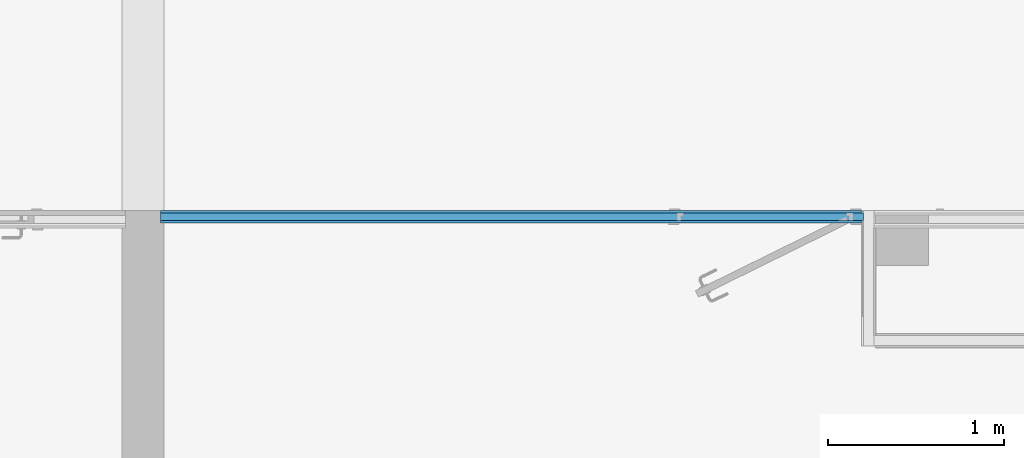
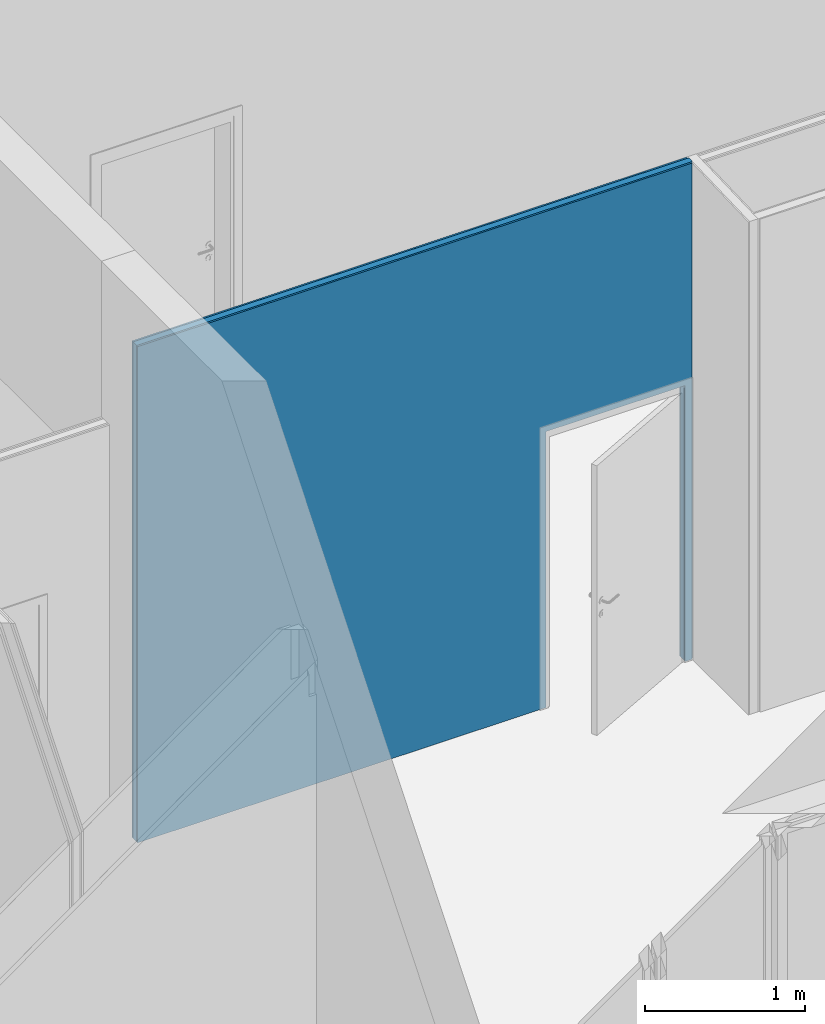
# One storey, part 23 of 34: 3 building element parts, 1 opening, 1 element without a shape of its own.
"""IFC2X3 building model written with IfcOpenShell, lengths in metres."""

from ifc_helpers import new_model, entity, si_unit, converted_unit, derived_unit, money_unit, direction, frame, origin_with_axes, origin_2d_with_axis, place, context, subcontext, project, spatial, polyline, rectangle, outline, extrude, boolean, faceted_brep, material, type_object, element, aggregate, save


model = new_model("IFC2X3")

# Units and contexts
model_context = context("Model", 3, precision=1e-05, world=origin_with_axes(), true_north=direction((0.0, 1.0)))
body_context = subcontext(model_context, "Body", "Model", "MODEL_VIEW")
ifc_project = project(units=[si_unit("LENGTHUNIT", "METRE"), si_unit("AREAUNIT", "SQUARE_METRE"), si_unit("VOLUMEUNIT", "CUBIC_METRE"), converted_unit("PLANEANGLEUNIT", "DEGREE", entity("IfcPlaneAngleMeasure", 0.0174532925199), si_unit("PLANEANGLEUNIT", "RADIAN"), dimensions=[0, 0, 0, 0, 0, 0, 0]), money_unit("CHF"), converted_unit("TIMEUNIT", "Year", entity("IfcTimeMeasure", 31556926.0), si_unit("TIMEUNIT", "SECOND"), dimensions=[0, 0, 1, 0, 0, 0, 0]), si_unit("MASSUNIT", "GRAM", prefix="KILO"), si_unit("THERMODYNAMICTEMPERATUREUNIT", "DEGREE_CELSIUS"), si_unit("LUMINOUSINTENSITYUNIT", "LUMEN"), si_unit("ENERGYUNIT", "JOULE", prefix="MEGA"), derived_unit("THERMALCONDUCTANCEUNIT", [(si_unit("POWERUNIT", "WATT"), 1), (si_unit("LENGTHUNIT", "METRE"), -1), (si_unit("THERMODYNAMICTEMPERATUREUNIT", "KELVIN"), -1)]), derived_unit("SPECIFICHEATCAPACITYUNIT", [(si_unit("ENERGYUNIT", "JOULE"), 1), (si_unit("MASSUNIT", "GRAM", prefix="KILO"), -1), (si_unit("THERMODYNAMICTEMPERATUREUNIT", "KELVIN"), -1)]), derived_unit("MASSDENSITYUNIT", [(si_unit("MASSUNIT", "GRAM", prefix="KILO"), 1), (si_unit("VOLUMEUNIT", "CUBIC_METRE"), -1)])], contexts=[model_context])

# Site, building, storey
site_placement = place(None, origin_with_axes())
site = spatial("IfcSite", under=ifc_project, at=site_placement, Name="Site", CompositionType="ELEMENT")
building_placement = place(site_placement, origin_with_axes())
building = spatial("IfcBuilding", under=site, at=building_placement, Name="Bâtiment", CompositionType="ELEMENT")
storey_placement = place(building_placement, origin_with_axes())
storey = spatial("IfcBuildingStorey", under=building, at=storey_placement, Name="Rez-de-chaussée", CompositionType="ELEMENT", Elevation=0.0)

# Wall, opening, building element parts
wall_type = type_object("IfcWallType", Name="Cloison 72/48 70", PredefinedType="NOTDEFINED")
wall_placement = place(storey_placement, frame((24.3494697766, 10.9801256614, 0.0), z_axis=(0.0, 0.0, 1.0), x_axis=(1.0, 0.0, 0.0)))
wall = element("IfcWall", 1, at=wall_placement, inside=storey, type_object=wall_type, Name="MUR_EXT-006")
opening_placement = place(wall_placement, frame((3.54, 0.0, 0.0), z_axis=(0.0, 0.0, 1.0), x_axis=(1.0, 0.0, 0.0)))
element("IfcOpeningElement", 2, at=opening_placement, cuts=wall, Name="PORTE-PP90 A2 - PF1/2H", context=body_context, shape_type="SweptSolid", body=[
    extrude(rectangle(XDim=1.0, YDim=2.1, at=origin_2d_with_axis()), frame((0.0, -0.07, 1.05), z_axis=(0.0, -1.0, 0.0), x_axis=(1.0, 0.0, 0.0)), (0.0, 0.0, -1.0), 0.21),
    extrude(rectangle(XDim=1.1, YDim=2.15, at=origin_2d_with_axis()), frame((0.0, -0.07, 1.075), z_axis=(0.0, -1.0, 0.0), x_axis=(1.0, 0.0, 0.0)), (0.0, 0.0, 1.0), 0.07),
    extrude(rectangle(XDim=1.09, YDim=2.145, at=origin_2d_with_axis()), frame((0.0, 0.0, 1.0725), z_axis=(0.0, 1.0, 0.0), x_axis=(1.0, 0.0, 0.0)), (0.0, 0.0, 1.0), 0.07),
])
ifc_material_1 = material(Name="Finition int - Plaque de plâtre")
building_element_part_1_placement = place(wall_placement, origin_with_axes())
building_element_part_1 = element("IfcBuildingElementPart", 3, at=building_element_part_1_placement, material=ifc_material_1, Name="Finition int - Plaque de plâtre", context=body_context, shape_type="CSG", body=[
    boolean("DIFFERENCE", boolean("DIFFERENCE", boolean("DIFFERENCE", boolean("DIFFERENCE", extrude(outline(polyline([(-0.12, -0.013), (4.17, -0.013), (4.17, 0.0), (-0.12, 0.0), (-0.12, -0.013)])), origin_with_axes(), (0.0, 0.0, 1.0), 3.82538501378), faceted_brep([(1.21299991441, -0.013, 2.5), (1.23699991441, -0.013, 2.5), (1.23699991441, -0.013, 3.26022608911), (1.21299991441, -0.013, 3.26022608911), (1.21299991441, 0.0, 2.5), (1.23699991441, 0.0, 2.5), (1.23699991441, 0.0, 3.26022608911), (1.21299991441, 0.0, 3.26022608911)], [[[0, 1, 2, 3]], [[4, 5, 1, 0]], [[5, 6, 2, 1]], [[6, 7, 3, 2]], [[7, 4, 0, 3]], [[4, 7, 6, 5]]])), faceted_brep([(0.0999999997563, 0.0, 3.77780439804), (0.1, 0.0, 0.0), (-0.12, 0.0, 0.0), (-0.12, 0.0, 3.82538501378), (4.17, 0.0, 3.82538501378), (4.17, 0.0, 0.0), (4.09, 8.64918092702e-09, 0.0), (4.09, 2.155839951e-10, 3.77780439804), (0.0999999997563, -0.013, 3.77734939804), (0.1, -0.013, 0.0), (-0.12, -0.013, 0.0), (-0.12, -0.013, 3.82538501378), (4.17, -0.013, 3.82538501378), (4.17, -0.013, 0.0), (4.09, -0.013, 0.0), (4.09, -0.013, 3.77734939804)], [[[0, 1, 2, 3, 4, 5, 6, 7]], [[1, 0, 8, 9]], [[1, 9, 10, 2]], [[3, 2, 10, 11]], [[3, 11, 12, 4]], [[12, 13, 5, 4]], [[14, 6, 5, 13]], [[7, 6, 14, 15]], [[0, 7, 15, 8]], [[15, 14, 13, 12, 11, 10, 9, 8]]])), faceted_brep([(0.0999999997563, -0.013, 3.77734939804), (0.1, -0.013, 0.0), (-0.12, -0.013, 0.0), (-0.12, -0.013, 3.82538501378), (4.17, -0.013, 3.82538501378), (4.17, -0.013, 0.0), (4.1, -0.013, 0.0), (4.1, -0.013, 3.77734939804), (4.09, -0.013, 3.77734939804), (0.1, -0.057, 0.0), (0.0999999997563, -0.057, 3.77580939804), (-0.12, -0.057, 0.0), (-0.12, -0.057, 3.82538501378), (4.17, -0.057, 3.82538501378), (4.17, -0.057, 0.0), (4.1, -0.057, 0.0), (4.1, -0.057, 3.77580939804), (4.09, -0.057, 3.77580939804)], [[[0, 1, 2, 3, 4, 5, 6, 7, 8]], [[9, 1, 0, 10]], [[1, 9, 11, 2]], [[3, 2, 11, 12]], [[3, 12, 13, 4]], [[13, 14, 5, 4]], [[15, 6, 5, 14]], [[7, 6, 15, 16]], [[8, 7, 16, 17, 10, 0]], [[16, 15, 14, 13, 12, 11, 9, 10, 17]]])), faceted_brep([(0.0999999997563, -0.057, 3.77580939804), (0.1, -0.057, 0.0), (-0.12, -0.057, 0.0), (-0.12, -0.057, 3.82538501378), (4.17, -0.057, 3.82538501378), (4.17, -0.057, 0.0), (4.09, -0.057, 0.0), (4.09, -0.057, 3.77580939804), (0.1, -0.07, 0.0), (0.0999999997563, -0.07, 3.77535439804), (-0.12, -0.07, 0.0), (-0.12, -0.07, 3.82538501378), (4.17, -0.07, 3.82538501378), (4.17, -0.07, 0.0), (4.09, -0.07, 0.0), (4.09, -0.07, 3.77535439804)], [[[0, 1, 2, 3, 4, 5, 6, 7]], [[8, 1, 0, 9]], [[1, 8, 10, 2]], [[3, 2, 10, 11]], [[3, 11, 12, 4]], [[12, 13, 5, 4]], [[14, 6, 5, 13]], [[7, 6, 14, 15]], [[0, 7, 15, 9]], [[15, 14, 13, 12, 11, 10, 8, 9]]])),
])
ifc_material_2 = material(Name="Isolation - Laine de verre")
building_element_part_2_placement = place(wall_placement, origin_with_axes())
building_element_part_2 = element("IfcBuildingElementPart", 4, at=building_element_part_2_placement, material=ifc_material_2, Name="Isolation - Laine de verre", context=body_context, shape_type="CSG", body=[
    boolean("DIFFERENCE", boolean("DIFFERENCE", boolean("DIFFERENCE", boolean("DIFFERENCE", extrude(outline(polyline([(-0.12, -0.057), (4.17, -0.057), (4.17, -0.013), (-0.12, -0.013), (-0.12, -0.057)])), origin_with_axes(), (0.0, 0.0, 1.0), 3.82538501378), faceted_brep([(1.21299991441, -0.013, 2.5), (1.23699991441, -0.013, 2.5), (1.23699991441, -0.013, 3.26022608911), (1.21299991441, -0.013, 3.26022608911), (1.21299991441, 0.0, 2.5), (1.23699991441, 0.0, 2.5), (1.23699991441, 0.0, 3.26022608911), (1.21299991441, 0.0, 3.26022608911)], [[[0, 1, 2, 3]], [[4, 5, 1, 0]], [[5, 6, 2, 1]], [[6, 7, 3, 2]], [[7, 4, 0, 3]], [[4, 7, 6, 5]]])), faceted_brep([(0.0999999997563, 0.0, 3.77780439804), (0.1, 0.0, 0.0), (-0.12, 0.0, 0.0), (-0.12, 0.0, 3.82538501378), (4.17, 0.0, 3.82538501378), (4.17, 0.0, 0.0), (4.09, 8.64918092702e-09, 0.0), (4.09, 2.155839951e-10, 3.77780439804), (0.0999999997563, -0.013, 3.77734939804), (0.1, -0.013, 0.0), (-0.12, -0.013, 0.0), (-0.12, -0.013, 3.82538501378), (4.17, -0.013, 3.82538501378), (4.17, -0.013, 0.0), (4.09, -0.013, 0.0), (4.09, -0.013, 3.77734939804)], [[[0, 1, 2, 3, 4, 5, 6, 7]], [[1, 0, 8, 9]], [[1, 9, 10, 2]], [[3, 2, 10, 11]], [[3, 11, 12, 4]], [[12, 13, 5, 4]], [[14, 6, 5, 13]], [[7, 6, 14, 15]], [[0, 7, 15, 8]], [[15, 14, 13, 12, 11, 10, 9, 8]]])), faceted_brep([(0.0999999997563, -0.013, 3.77734939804), (0.1, -0.013, 0.0), (-0.12, -0.013, 0.0), (-0.12, -0.013, 3.82538501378), (4.17, -0.013, 3.82538501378), (4.17, -0.013, 0.0), (4.1, -0.013, 0.0), (4.1, -0.013, 3.77734939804), (4.09, -0.013, 3.77734939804), (0.1, -0.057, 0.0), (0.0999999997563, -0.057, 3.77580939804), (-0.12, -0.057, 0.0), (-0.12, -0.057, 3.82538501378), (4.17, -0.057, 3.82538501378), (4.17, -0.057, 0.0), (4.1, -0.057, 0.0), (4.1, -0.057, 3.77580939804), (4.09, -0.057, 3.77580939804)], [[[0, 1, 2, 3, 4, 5, 6, 7, 8]], [[9, 1, 0, 10]], [[1, 9, 11, 2]], [[3, 2, 11, 12]], [[3, 12, 13, 4]], [[13, 14, 5, 4]], [[15, 6, 5, 14]], [[7, 6, 15, 16]], [[8, 7, 16, 17, 10, 0]], [[16, 15, 14, 13, 12, 11, 9, 10, 17]]])), faceted_brep([(0.0999999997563, -0.057, 3.77580939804), (0.1, -0.057, 0.0), (-0.12, -0.057, 0.0), (-0.12, -0.057, 3.82538501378), (4.17, -0.057, 3.82538501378), (4.17, -0.057, 0.0), (4.09, -0.057, 0.0), (4.09, -0.057, 3.77580939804), (0.1, -0.07, 0.0), (0.0999999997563, -0.07, 3.77535439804), (-0.12, -0.07, 0.0), (-0.12, -0.07, 3.82538501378), (4.17, -0.07, 3.82538501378), (4.17, -0.07, 0.0), (4.09, -0.07, 0.0), (4.09, -0.07, 3.77535439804)], [[[0, 1, 2, 3, 4, 5, 6, 7]], [[8, 1, 0, 9]], [[1, 8, 10, 2]], [[3, 2, 10, 11]], [[3, 11, 12, 4]], [[12, 13, 5, 4]], [[14, 6, 5, 13]], [[7, 6, 14, 15]], [[0, 7, 15, 9]], [[15, 14, 13, 12, 11, 10, 8, 9]]])),
])
building_element_part_3_placement = place(wall_placement, origin_with_axes())
building_element_part_3 = element("IfcBuildingElementPart", 5, at=building_element_part_3_placement, material=ifc_material_1, Name="Finition int - Plaque de plâtre", context=body_context, shape_type="CSG", body=[
    boolean("DIFFERENCE", boolean("DIFFERENCE", boolean("DIFFERENCE", boolean("DIFFERENCE", extrude(outline(polyline([(-0.12, -0.07), (4.17, -0.07), (4.17, -0.057), (-0.12, -0.057), (-0.12, -0.07)])), origin_with_axes(), (0.0, 0.0, 1.0), 3.82538501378), faceted_brep([(1.21299991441, -0.013, 2.5), (1.23699991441, -0.013, 2.5), (1.23699991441, -0.013, 3.26022608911), (1.21299991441, -0.013, 3.26022608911), (1.21299991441, 0.0, 2.5), (1.23699991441, 0.0, 2.5), (1.23699991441, 0.0, 3.26022608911), (1.21299991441, 0.0, 3.26022608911)], [[[0, 1, 2, 3]], [[4, 5, 1, 0]], [[5, 6, 2, 1]], [[6, 7, 3, 2]], [[7, 4, 0, 3]], [[4, 7, 6, 5]]])), faceted_brep([(0.0999999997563, 0.0, 3.77780439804), (0.1, 0.0, 0.0), (-0.12, 0.0, 0.0), (-0.12, 0.0, 3.82538501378), (4.17, 0.0, 3.82538501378), (4.17, 0.0, 0.0), (4.09, 8.64918092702e-09, 0.0), (4.09, 2.155839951e-10, 3.77780439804), (0.0999999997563, -0.013, 3.77734939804), (0.1, -0.013, 0.0), (-0.12, -0.013, 0.0), (-0.12, -0.013, 3.82538501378), (4.17, -0.013, 3.82538501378), (4.17, -0.013, 0.0), (4.09, -0.013, 0.0), (4.09, -0.013, 3.77734939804)], [[[0, 1, 2, 3, 4, 5, 6, 7]], [[1, 0, 8, 9]], [[1, 9, 10, 2]], [[3, 2, 10, 11]], [[3, 11, 12, 4]], [[12, 13, 5, 4]], [[14, 6, 5, 13]], [[7, 6, 14, 15]], [[0, 7, 15, 8]], [[15, 14, 13, 12, 11, 10, 9, 8]]])), faceted_brep([(0.0999999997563, -0.013, 3.77734939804), (0.1, -0.013, 0.0), (-0.12, -0.013, 0.0), (-0.12, -0.013, 3.82538501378), (4.17, -0.013, 3.82538501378), (4.17, -0.013, 0.0), (4.1, -0.013, 0.0), (4.1, -0.013, 3.77734939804), (4.09, -0.013, 3.77734939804), (0.1, -0.057, 0.0), (0.0999999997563, -0.057, 3.77580939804), (-0.12, -0.057, 0.0), (-0.12, -0.057, 3.82538501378), (4.17, -0.057, 3.82538501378), (4.17, -0.057, 0.0), (4.1, -0.057, 0.0), (4.1, -0.057, 3.77580939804), (4.09, -0.057, 3.77580939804)], [[[0, 1, 2, 3, 4, 5, 6, 7, 8]], [[9, 1, 0, 10]], [[1, 9, 11, 2]], [[3, 2, 11, 12]], [[3, 12, 13, 4]], [[13, 14, 5, 4]], [[15, 6, 5, 14]], [[7, 6, 15, 16]], [[8, 7, 16, 17, 10, 0]], [[16, 15, 14, 13, 12, 11, 9, 10, 17]]])), faceted_brep([(0.0999999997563, -0.057, 3.77580939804), (0.1, -0.057, 0.0), (-0.12, -0.057, 0.0), (-0.12, -0.057, 3.82538501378), (4.17, -0.057, 3.82538501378), (4.17, -0.057, 0.0), (4.09, -0.057, 0.0), (4.09, -0.057, 3.77580939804), (0.1, -0.07, 0.0), (0.0999999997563, -0.07, 3.77535439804), (-0.12, -0.07, 0.0), (-0.12, -0.07, 3.82538501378), (4.17, -0.07, 3.82538501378), (4.17, -0.07, 0.0), (4.09, -0.07, 0.0), (4.09, -0.07, 3.77535439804)], [[[0, 1, 2, 3, 4, 5, 6, 7]], [[8, 1, 0, 9]], [[1, 8, 10, 2]], [[3, 2, 10, 11]], [[3, 11, 12, 4]], [[12, 13, 5, 4]], [[14, 6, 5, 13]], [[7, 6, 14, 15]], [[0, 7, 15, 9]], [[15, 14, 13, 12, 11, 10, 8, 9]]])),
])
aggregate(wall, [building_element_part_1, building_element_part_2, building_element_part_3])

save(model, "model.ifc")
